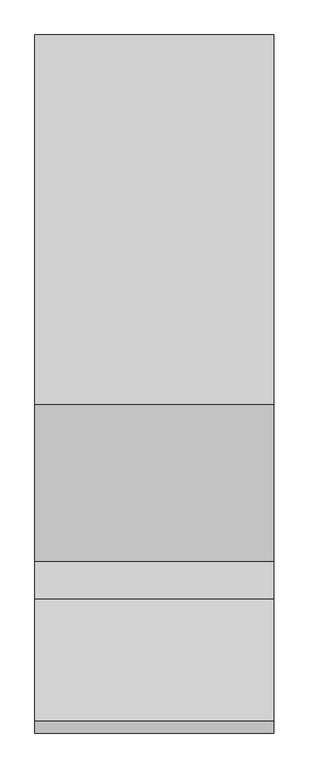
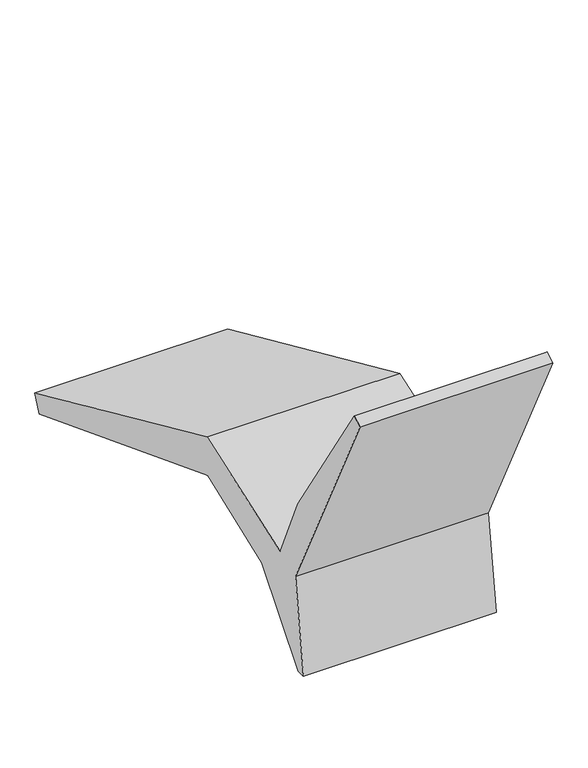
"""IFC4 building model written with IfcOpenShell, lengths in millimetres: geographic element geometry, Enscape AssetDefinition - Sunbed 002 : Enscape AssetDefinition - Sunbed 002."""

from ifc_helpers import new_model, si_unit, origin, place, context, project, spatial, triangles, source, transform, mapped, element, save


def geographic_element_6c620df9(model_context):
    return source(origin(), model_context, "Body", "Tessellation", [
        triangles([(330.7798096, -105.2493079, 521.2041601), (-330.8439772, -105.2493079, 521.2041601), (-330.8439772, 918.9664364, 60.9255281), (-330.8439772, -108.4461604, 384.6349889), (330.7798096, 918.9664364, 60.9255281), (330.7798096, 892.4774282, -0.152374), (-330.8439772, -541.0057858, 370.3619865), (-330.8439772, 892.4774282, -0.152374), (330.7798096, -108.4461604, 384.6349889), (-330.8439772, -429.5071409, 261.6210949), (330.7798096, -429.5071409, 261.6210949), (-330.8439772, -648.094598, -0.152374), (330.7798096, -648.094598, -0.152374), (330.7798096, -541.0057858, 370.3619865), (330.7798096, -643.62365, 605.8078259), (330.7798096, -678.575441, -0.152374), (-330.8439772, -678.575441, -0.152374), (330.7798096, -631.7535896, 333.9796869), (-330.8439772, -1015.6316843, 1110.0514297), (-330.8439772, -631.7535896, 333.9796869), (330.7798096, -1015.6316843, 1110.0514297), (-330.8439772, -981.4638571, 1129.8659906), (330.7798096, -981.4638571, 1129.8659906), (-330.8439772, -643.62365, 605.8078259)], [[24, 15, 7], [15, 24, 23], [22, 23, 24], [23, 21, 15], [22, 24, 19], [21, 23, 19], [22, 19, 23], [19, 24, 20], [24, 7, 20], [20, 7, 17], [21, 18, 15], [20, 18, 19], [21, 19, 18], [17, 16, 20], [18, 20, 16], [17, 12, 16], [7, 12, 17], [13, 16, 12], [16, 13, 14], [15, 18, 14], [16, 14, 18], [14, 7, 15], [13, 11, 14], [13, 12, 11], [11, 9, 14], [12, 7, 10], [10, 11, 12], [11, 10, 9], [4, 9, 10], [4, 8, 9], [6, 9, 8], [1, 14, 9], [14, 1, 7], [9, 6, 1], [6, 8, 5], [5, 1, 6], [3, 5, 8], [8, 4, 3], [4, 10, 2], [7, 2, 10], [2, 7, 1], [2, 3, 4], [1, 5, 2], [3, 2, 5]]),
    ])


if __name__ == "__main__":
    model = new_model("IFC4")
    model_context = context("Model", 3, world=origin())
    ifc_project = project(units=[si_unit("LENGTHUNIT", "METRE", prefix="MILLI")], contexts=[model_context])
    site = spatial("IfcSite", under=ifc_project)
    building = spatial("IfcBuilding", under=site)
    placement = place(None, origin())
    geographic_element_shape = geographic_element_6c620df9(model_context)
    element("IfcGeographicElement", 1, ObjectType="Enscape AssetDefinition - Sunbed 002 : Enscape AssetDefinition - Sunbed 002", at=placement, inside=building, context=model_context, shape_type="MappedRepresentation", body=[
        mapped(geographic_element_shape, transform((0.0, 0.0, 0.0), x_axis=(1.0, 0.0, 0.0), y_axis=(0.0, 1.0, 0.0), z_axis=(0.0, 0.0, 1.0))),
    ])
    save(model, "model.ifc")
